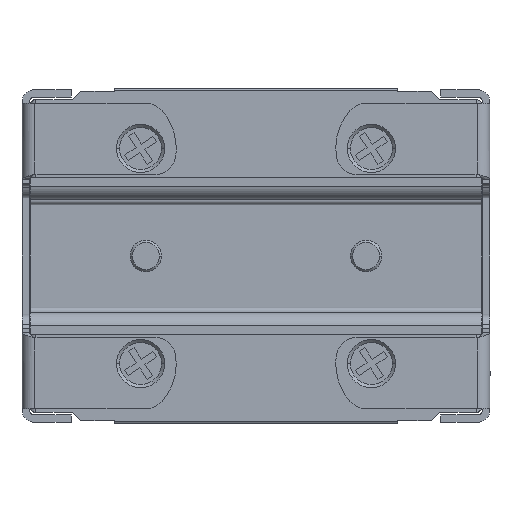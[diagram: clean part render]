
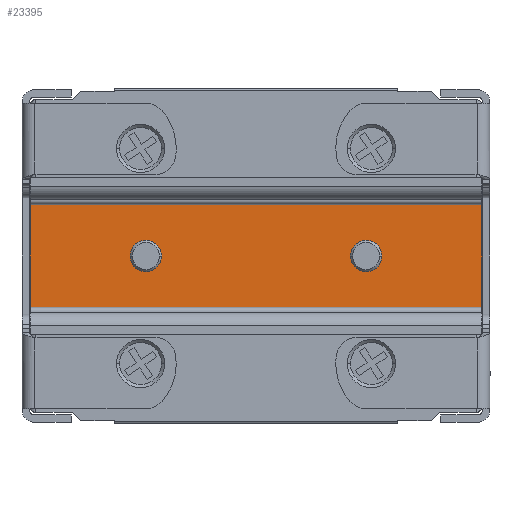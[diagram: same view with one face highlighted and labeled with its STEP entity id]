
A CAD part, front view. The second image highlights one B-rep face of the part: STEP entity #23395.
In plain terms, the highlighted planar face has unit normal (0, -1, 0).
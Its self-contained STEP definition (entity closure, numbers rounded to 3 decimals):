
#2004 = VERTEX_POINT ( 'NONE', #12338 ) ;
#2015 = VERTEX_POINT ( 'NONE', #12380 ) ;
#2017 = EDGE_CURVE ( 'NONE', #2004, #2015, #12379, .T. ) ;
#2030 = EDGE_CURVE ( 'NONE', #2031, #2032, #12421, .T. ) ;
#2031 = VERTEX_POINT ( 'NONE', #12416 ) ;
#2032 = VERTEX_POINT ( 'NONE', #12415 ) ;
#2064 = EDGE_CURVE ( 'NONE', #2065, #2066, #12436, .T. ) ;
#2065 = VERTEX_POINT ( 'NONE', #12481 ) ;
#2066 = VERTEX_POINT ( 'NONE', #12480 ) ;
#12338 = CARTESIAN_POINT ( 'NONE',  ( -61.5, 9.5, -6.7 ) ) ;
#12376 = DIRECTION ( 'NONE',  ( 1., 0., 0. ) ) ;
#12377 = VECTOR ( 'NONE', #12376, 1000. ) ;
#12378 = CARTESIAN_POINT ( 'NONE',  ( -61.5, 9.5, -6.7 ) ) ;
#12379 = LINE ( 'NONE', #12378, #12377 ) ;
#12380 = CARTESIAN_POINT ( 'NONE',  ( -18.5, 9.5, -6.7 ) ) ;
#12415 = CARTESIAN_POINT ( 'NONE',  ( -50.5, 9.5, 1.5 ) ) ;
#12416 = CARTESIAN_POINT ( 'NONE',  ( -50.5, 9.5, -1.5 ) ) ;
#12417 = DIRECTION ( 'NONE',  ( 0., 0., 1. ) ) ;
#12418 = DIRECTION ( 'NONE',  ( 0., 1., 0. ) ) ;
#12419 = CARTESIAN_POINT ( 'NONE',  ( -50.5, 9.5, 0. ) ) ;
#12420 = AXIS2_PLACEMENT_3D ( 'NONE', #12419, #12418, #12417 ) ;
#12421 = CIRCLE ( 'NONE', #12420, 1.5 ) ;
#12436 = CIRCLE ( 'NONE', #12485, 1.5 ) ;
#12480 = CARTESIAN_POINT ( 'NONE',  ( -29.5, 9.5, 1.5 ) ) ;
#12481 = CARTESIAN_POINT ( 'NONE',  ( -29.5, 9.5, -1.5 ) ) ;
#12482 = DIRECTION ( 'NONE',  ( 0., 0., 1. ) ) ;
#12483 = DIRECTION ( 'NONE',  ( 0., 1., 0. ) ) ;
#12484 = CARTESIAN_POINT ( 'NONE',  ( -29.5, 9.5, 0. ) ) ;
#12485 = AXIS2_PLACEMENT_3D ( 'NONE', #12484, #12483, #12482 ) ;
#23380 = VERTEX_POINT ( 'NONE', #27923 ) ;
#23381 = ORIENTED_EDGE ( 'NONE', *, *, #23382, .T. ) ;
#23382 = EDGE_CURVE ( 'NONE', #23380, #2004, #27903, .T. ) ;
#23383 = ORIENTED_EDGE ( 'NONE', *, *, #2017, .T. ) ;
#23395 = ADVANCED_FACE ( 'NONE', ( #27949, #27948, #27947 ), #27946, .F. ) ;
#23396 = EDGE_LOOP ( 'NONE', ( #23397, #23399 ) ) ;
#23397 = ORIENTED_EDGE ( 'NONE', *, *, #23398, .T. ) ;
#23398 = EDGE_CURVE ( 'NONE', #2032, #2031, #27941, .T. ) ;
#23399 = ORIENTED_EDGE ( 'NONE', *, *, #2030, .T. ) ;
#23400 = EDGE_LOOP ( 'NONE', ( #23401, #23459 ) ) ;
#23401 = ORIENTED_EDGE ( 'NONE', *, *, #23402, .T. ) ;
#23402 = EDGE_CURVE ( 'NONE', #2066, #2065, #27936, .T. ) ;
#23459 = ORIENTED_EDGE ( 'NONE', *, *, #2064, .T. ) ;
#23460 = EDGE_LOOP ( 'NONE', ( #23461, #23464, #23381, #23383 ) ) ;
#23461 = ORIENTED_EDGE ( 'NONE', *, *, #23462, .T. ) ;
#23462 = EDGE_CURVE ( 'NONE', #2015, #23463, #28084, .T. ) ;
#23463 = VERTEX_POINT ( 'NONE', #28080 ) ;
#23464 = ORIENTED_EDGE ( 'NONE', *, *, #23465, .F. ) ;
#23465 = EDGE_CURVE ( 'NONE', #23380, #23463, #28079, .T. ) ;
#27900 = DIRECTION ( 'NONE',  ( 0., 0., -1. ) ) ;
#27901 = VECTOR ( 'NONE', #27900, 1000. ) ;
#27902 = CARTESIAN_POINT ( 'NONE',  ( -61.5, 9.5, -7.5 ) ) ;
#27903 = LINE ( 'NONE', #27902, #27901 ) ;
#27923 = CARTESIAN_POINT ( 'NONE',  ( -61.5, 9.5, 6.7 ) ) ;
#27932 = DIRECTION ( 'NONE',  ( 0., 0., 1. ) ) ;
#27933 = DIRECTION ( 'NONE',  ( 0., 1., 0. ) ) ;
#27934 = CARTESIAN_POINT ( 'NONE',  ( -29.5, 9.5, 0. ) ) ;
#27935 = AXIS2_PLACEMENT_3D ( 'NONE', #27934, #27933, #27932 ) ;
#27936 = CIRCLE ( 'NONE', #27935, 1.5 ) ;
#27937 = DIRECTION ( 'NONE',  ( 0., 0., 1. ) ) ;
#27938 = DIRECTION ( 'NONE',  ( 0., 1., 0. ) ) ;
#27939 = CARTESIAN_POINT ( 'NONE',  ( -50.5, 9.5, 0. ) ) ;
#27940 = AXIS2_PLACEMENT_3D ( 'NONE', #27939, #27938, #27937 ) ;
#27941 = CIRCLE ( 'NONE', #27940, 1.5 ) ;
#27942 = DIRECTION ( 'NONE',  ( 0., 0., 1. ) ) ;
#27943 = DIRECTION ( 'NONE',  ( 0., 1., 0. ) ) ;
#27944 = CARTESIAN_POINT ( 'NONE',  ( -43.75, 9.5, 0. ) ) ;
#27945 = AXIS2_PLACEMENT_3D ( 'NONE', #27944, #27943, #27942 ) ;
#27946 = PLANE ( 'NONE',  #27945 ) ;
#27947 = FACE_OUTER_BOUND ( 'NONE', #23460, .T. ) ;
#27948 = FACE_BOUND ( 'NONE', #23400, .T. ) ;
#27949 = FACE_BOUND ( 'NONE', #23396, .T. ) ;
#28076 = DIRECTION ( 'NONE',  ( 1., 0., 0. ) ) ;
#28077 = VECTOR ( 'NONE', #28076, 1000. ) ;
#28078 = CARTESIAN_POINT ( 'NONE',  ( -61.5, 9.5, 6.7 ) ) ;
#28079 = LINE ( 'NONE', #28078, #28077 ) ;
#28080 = CARTESIAN_POINT ( 'NONE',  ( -18.5, 9.5, 6.7 ) ) ;
#28081 = DIRECTION ( 'NONE',  ( 0., 0., 1. ) ) ;
#28082 = VECTOR ( 'NONE', #28081, 1000. ) ;
#28083 = CARTESIAN_POINT ( 'NONE',  ( -18.5, 9.5, -7.5 ) ) ;
#28084 = LINE ( 'NONE', #28083, #28082 ) ;
